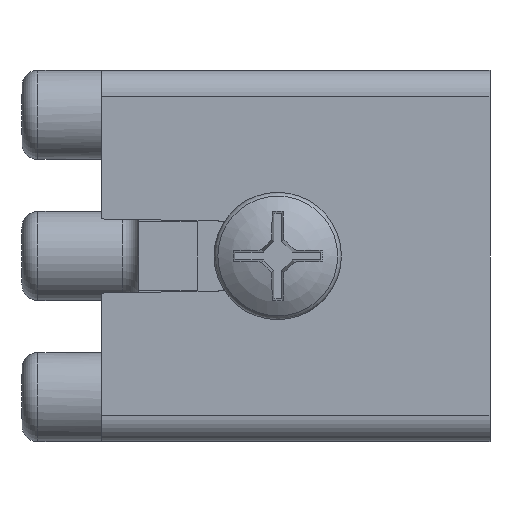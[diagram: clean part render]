
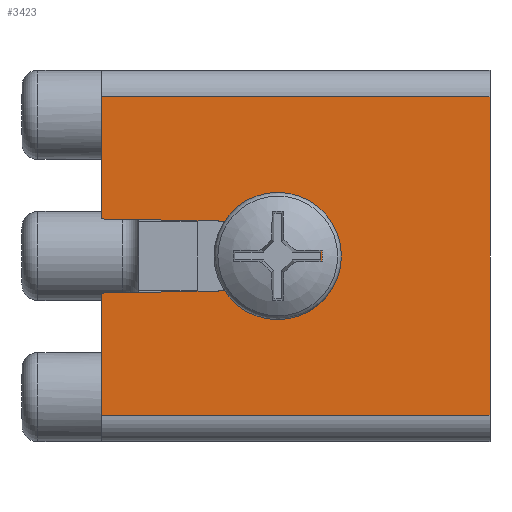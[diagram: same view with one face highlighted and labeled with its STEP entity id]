
A CAD part, left-side view. The second image highlights one B-rep face of the part: STEP entity #3423.
In plain terms, the highlighted planar face has unit normal (-1, 0, 0).
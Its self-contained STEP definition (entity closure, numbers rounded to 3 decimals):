
#2145=PLANE('',#9085);
#2314=LINE('',#13230,#2844);
#2323=LINE('',#13261,#2853);
#2394=LINE('',#13471,#2924);
#2410=LINE('',#13506,#2940);
#2458=LINE('',#13645,#2988);
#2467=LINE('',#13663,#2997);
#2468=LINE('',#13665,#2998);
#2844=VECTOR('',#10287,1.);
#2853=VECTOR('',#10310,1.);
#2924=VECTOR('',#10449,1.);
#2940=VECTOR('',#10477,1.);
#2988=VECTOR('',#10607,1.);
#2997=VECTOR('',#10622,1.);
#2998=VECTOR('',#10625,1.);
#3423=ADVANCED_FACE('',(#3814),#2145,.T.);
#3814=FACE_OUTER_BOUND('',#4161,.T.);
#4161=EDGE_LOOP('',(#5165,#5166,#5167,#5168,#5169,#5170,#5171,#5172));
#5165=ORIENTED_EDGE('',*,*,#7552,.T.);
#5166=ORIENTED_EDGE('',*,*,#7358,.T.);
#5167=ORIENTED_EDGE('',*,*,#7471,.T.);
#5168=ORIENTED_EDGE('',*,*,#7553,.T.);
#5169=ORIENTED_EDGE('',*,*,#7453,.F.);
#5170=ORIENTED_EDGE('',*,*,#7343,.F.);
#5171=ORIENTED_EDGE('',*,*,#7554,.F.);
#5172=ORIENTED_EDGE('',*,*,#7542,.F.);
#6360=VERTEX_POINT('',#13229);
#6361=VERTEX_POINT('',#13231);
#6375=VERTEX_POINT('',#13260);
#6376=VERTEX_POINT('',#13262);
#6462=VERTEX_POINT('',#13472);
#6474=VERTEX_POINT('',#13505);
#6524=VERTEX_POINT('',#13644);
#6525=VERTEX_POINT('',#13646);
#7343=EDGE_CURVE('',#6360,#6361,#2314,.T.);
#7358=EDGE_CURVE('',#6376,#6375,#2323,.T.);
#7453=EDGE_CURVE('',#6361,#6462,#2394,.T.);
#7471=EDGE_CURVE('',#6375,#6474,#2410,.T.);
#7542=EDGE_CURVE('',#6524,#6525,#2458,.T.);
#7552=EDGE_CURVE('',#6524,#6376,#2467,.T.);
#7553=EDGE_CURVE('',#6474,#6462,#8414,.T.);
#7554=EDGE_CURVE('',#6525,#6360,#2468,.T.);
#8414=CIRCLE('',#9084,3.2);
#9084=AXIS2_PLACEMENT_3D('',#13664,#10623,#10624);
#9085=AXIS2_PLACEMENT_3D('',#13666,#10626,#10627);
#10287=DIRECTION('',(0.,0.,1.));
#10310=DIRECTION('',(0.,0.,-1.));
#10449=DIRECTION('',(0.,-1.,0.017));
#10477=DIRECTION('',(0.,-1.,-0.017));
#10607=DIRECTION('',(0.,0.,-1.));
#10622=DIRECTION('',(0.,1.,0.));
#10623=DIRECTION('',(1.,0.,0.));
#10624=DIRECTION('',(0.,0.,1.));
#10625=DIRECTION('',(0.,1.,0.));
#10626=DIRECTION('',(-1.,0.,0.));
#10627=DIRECTION('',(0.,0.,1.));
#13229=CARTESIAN_POINT('',(-327.75,7.5,-15.));
#13230=CARTESIAN_POINT('',(-327.75,7.5,0.));
#13231=CARTESIAN_POINT('',(-327.75,7.5,-3.49));
#13260=CARTESIAN_POINT('',(-327.75,7.5,3.49));
#13261=CARTESIAN_POINT('',(-327.75,7.5,15.));
#13262=CARTESIAN_POINT('',(-327.75,7.5,15.));
#13471=CARTESIAN_POINT('',(-327.75,7.5,-3.49));
#13472=CARTESIAN_POINT('',(-327.75,-9.156,-3.2));
#13505=CARTESIAN_POINT('',(-327.75,-9.156,3.2));
#13506=CARTESIAN_POINT('',(-327.75,7.5,3.49));
#13644=CARTESIAN_POINT('',(-327.75,-29.1,15.));
#13645=CARTESIAN_POINT('',(-327.75,-29.1,15.));
#13646=CARTESIAN_POINT('',(-327.75,-29.1,-15.));
#13663=CARTESIAN_POINT('',(-327.75,-29.1,15.));
#13664=CARTESIAN_POINT('',(-327.75,-9.1,0.));
#13665=CARTESIAN_POINT('',(-327.75,-29.1,-15.));
#13666=CARTESIAN_POINT('',(-327.75,7.501,15.001));
